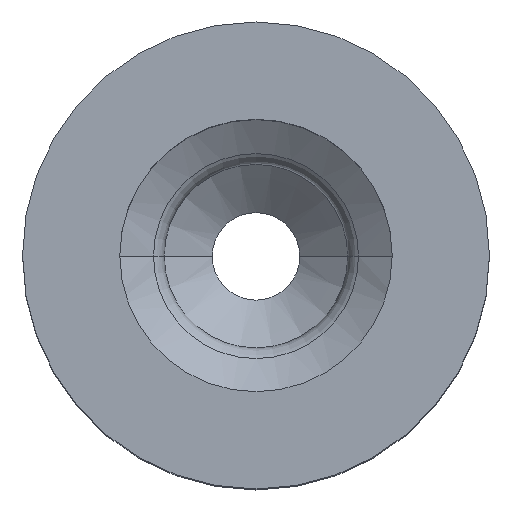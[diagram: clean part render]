
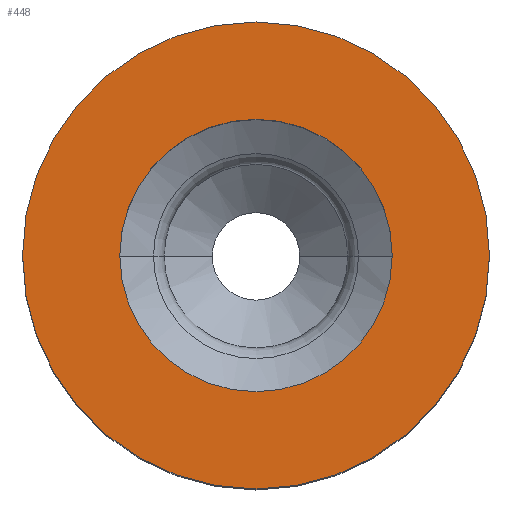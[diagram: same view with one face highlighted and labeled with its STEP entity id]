
A CAD part, top view. The second image highlights one B-rep face of the part: STEP entity #448.
In plain terms, the highlighted planar face has unit normal (0, 0, 1).
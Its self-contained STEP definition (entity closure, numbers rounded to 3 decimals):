
#10 = AXIS2_PLACEMENT_3D ( 'NONE', #498, #290, #350 ) ;
#54 = EDGE_CURVE ( 'NONE', #110, #259, #943, .T. ) ;
#60 = CIRCLE ( 'NONE', #217, 6. ) ;
#110 = VERTEX_POINT ( 'NONE', #903 ) ;
#122 = DIRECTION ( 'NONE',  ( 1., 0., 0. ) ) ;
#139 = CIRCLE ( 'NONE', #532, 6. ) ;
#194 = DIRECTION ( 'NONE',  ( 0., 0., 1. ) ) ;
#197 = AXIS2_PLACEMENT_3D ( 'NONE', #282, #472, #330 ) ;
#217 = AXIS2_PLACEMENT_3D ( 'NONE', #405, #194, #122 ) ;
#218 = CARTESIAN_POINT ( 'NONE',  ( -6., 0., 0. ) ) ;
#259 = VERTEX_POINT ( 'NONE', #934 ) ;
#267 = CARTESIAN_POINT ( 'NONE',  ( 6., 0., 0. ) ) ;
#282 = CARTESIAN_POINT ( 'NONE',  ( 0., 0., 0. ) ) ;
#290 = DIRECTION ( 'NONE',  ( 0., 0., -1. ) ) ;
#330 = DIRECTION ( 'NONE',  ( 1., 0., 0. ) ) ;
#346 = ORIENTED_EDGE ( 'NONE', *, *, #411, .T. ) ;
#350 = DIRECTION ( 'NONE',  ( -1., 0., 0. ) ) ;
#400 = ORIENTED_EDGE ( 'NONE', *, *, #434, .F. ) ;
#405 = CARTESIAN_POINT ( 'NONE',  ( 0., 0., 0. ) ) ;
#411 = EDGE_CURVE ( 'NONE', #854, #810, #60, .T. ) ;
#422 = EDGE_LOOP ( 'NONE', ( #400, #857 ) ) ;
#434 = EDGE_CURVE ( 'NONE', #259, #110, #729, .T. ) ;
#448 = ADVANCED_FACE ( 'NONE', ( #950, #861 ), #800, .F. ) ;
#470 = DIRECTION ( 'NONE',  ( 1., 0., 0. ) ) ;
#472 = DIRECTION ( 'NONE',  ( 0., 0., 1. ) ) ;
#484 = ORIENTED_EDGE ( 'NONE', *, *, #596, .T. ) ;
#490 = AXIS2_PLACEMENT_3D ( 'NONE', #794, #711, #570 ) ;
#498 = CARTESIAN_POINT ( 'NONE',  ( 0., 0., 0. ) ) ;
#532 = AXIS2_PLACEMENT_3D ( 'NONE', #862, #551, #470 ) ;
#551 = DIRECTION ( 'NONE',  ( 0., 0., 1. ) ) ;
#570 = DIRECTION ( 'NONE',  ( 1., 0., 0. ) ) ;
#594 = EDGE_LOOP ( 'NONE', ( #346, #484 ) ) ;
#596 = EDGE_CURVE ( 'NONE', #810, #854, #139, .T. ) ;
#711 = DIRECTION ( 'NONE',  ( 0., 0., 1. ) ) ;
#729 = CIRCLE ( 'NONE', #197, 3.5 ) ;
#794 = CARTESIAN_POINT ( 'NONE',  ( 0., 0., 0. ) ) ;
#800 = PLANE ( 'NONE',  #10 ) ;
#810 = VERTEX_POINT ( 'NONE', #218 ) ;
#854 = VERTEX_POINT ( 'NONE', #267 ) ;
#857 = ORIENTED_EDGE ( 'NONE', *, *, #54, .F. ) ;
#861 = FACE_BOUND ( 'NONE', #422, .T. ) ;
#862 = CARTESIAN_POINT ( 'NONE',  ( 0., 0., 0. ) ) ;
#903 = CARTESIAN_POINT ( 'NONE',  ( -3.5, 0., 0. ) ) ;
#934 = CARTESIAN_POINT ( 'NONE',  ( 3.5, 0., 0. ) ) ;
#943 = CIRCLE ( 'NONE', #490, 3.5 ) ;
#950 = FACE_OUTER_BOUND ( 'NONE', #594, .T. ) ;
